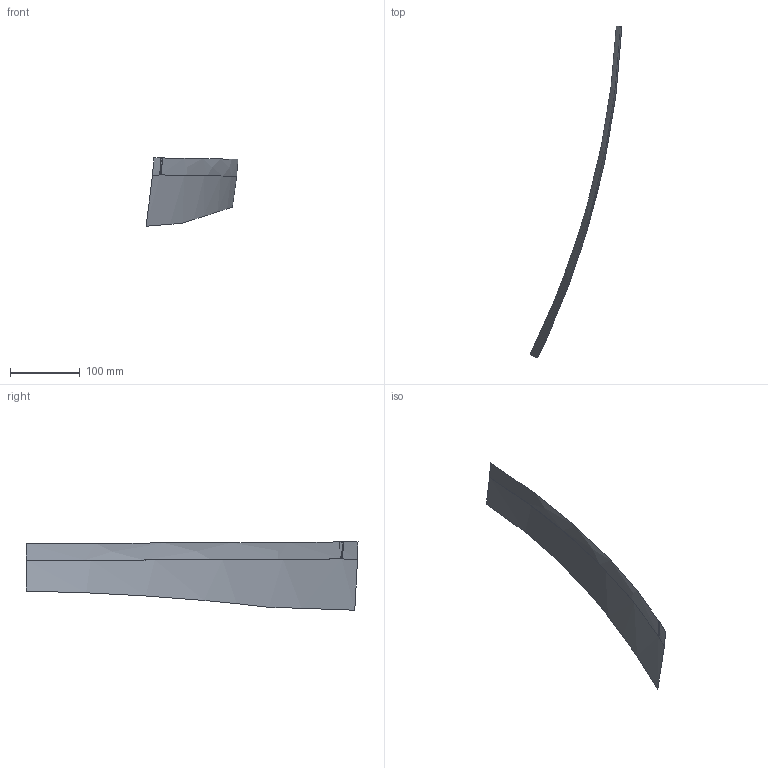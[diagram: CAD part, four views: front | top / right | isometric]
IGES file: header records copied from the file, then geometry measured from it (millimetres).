
Global section: file name: faces1.igs; native system: ANSA9.x; preprocessor: 1.2; author: cai; date: **0102.112811; units: millimetre
Bounding box: 131.79 x 475.98 x 98.06 mm (x, y, z)
Surface area: 41222.8 mm2 (no closed solid volume)
Topology: 0 solids, 0 shells, 3 faces, 15 edges, 15 vertices
Faces by surface type: bspline 3
